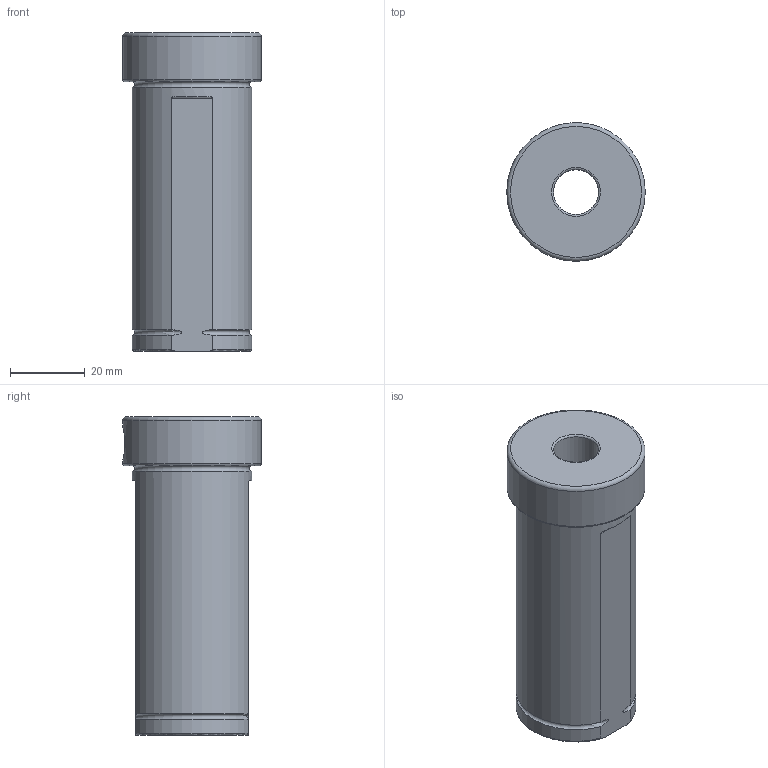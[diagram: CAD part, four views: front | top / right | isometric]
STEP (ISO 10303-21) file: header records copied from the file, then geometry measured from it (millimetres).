
FILE_DESCRIPTION(/* description */ (''),/* implementation_level */ '2;1');
FILE_NAME(/* name */ '',/* time_stamp */ '2025-08-20T14:35:34+03:00',/* author */ ('User'),/* organization */ (''),/* preprocessor_version */ 'ST-DEVELOPER v19.2',/* originating_system */ 'Autodesk Inventor 2024',/* authorisation */ '');
FILE_SCHEMA (('AUTOMOTIVE_DESIGN { 1 0 10303 214 3 1 1 }'));
Length unit declared in the file: millimetre
Products named in the file (1): Втулка переходная 
D40-d6
Bounding box: 37 x 37 x 85 mm (x, y, z)
Volume: 52891.1 mm3; surface area: 15279.2 mm2
Topology: 1 solids, 1 shells, 51 faces, 123 edges, 82 vertices
Faces by surface type: plane 27, cylinder 13, torus 10, bspline 1
Full cylindrical faces by diameter (mm): 7 x2, 8 x2, 12 x1, 19.5 x1, 20 x1, 32 x1, 37 x1
Entity records: 1847 total; most frequent: CARTESIAN_POINT 547, DIRECTION 254, ORIENTED_EDGE 246, EDGE_CURVE 123, AXIS2_PLACEMENT_3D 97, VERTEX_POINT 82, EDGE_LOOP 61, LINE 60
